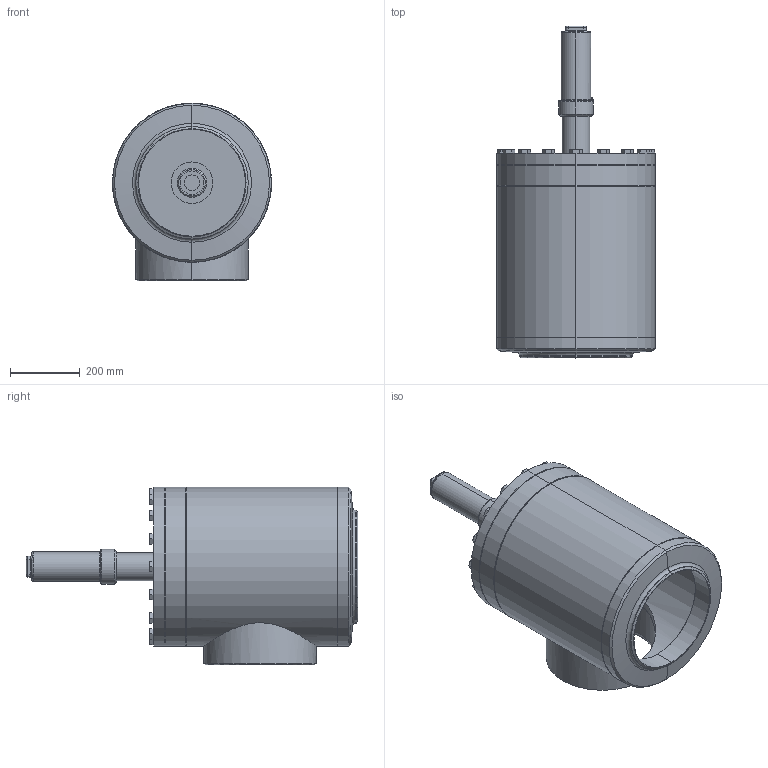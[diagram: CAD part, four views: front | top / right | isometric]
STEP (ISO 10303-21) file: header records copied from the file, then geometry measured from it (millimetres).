
FILE_DESCRIPTION (( 'STEP AP214' ), '1' );
FILE_NAME ('AVR26400aC25-DN300_R1_PS25.STEP', '2009-02-06T09:15:04', ( 'Eckhard Grams' ), ( 'AWP Kälte Klima Armaturen GmbH' ), 'SwSTEP 2.0', 'SolidWorks 2002296', '' );
FILE_SCHEMA (( 'AUTOMOTIVE_DESIGN' ));
Length unit declared in the file: millimetre
Products named in the file (15): AVR26400aC25-DN300_R1_PS25; AVR26300B25_Deck+Schr-DN300_Standard; Deckel,kpl26300B25-DN300_Standard; Buchse1 f Deckel26300-DN300_Standard; Scheibe f Deckel26300-DN300_Standard; bead-deck263-300_Standard; Sechskantschraube-DIN933_M20x 60; Geh,kpl 26300a-25_R1_Standard; Gehäuse26300-DN300_Standard; Rohrstutzen-A26300a-25_R1_Standard; Kopfstück26300-DN300_Standard; Boden26300a-25_R1_Standard; bead Geh,kpl 26300a-25-2_Standard; bead Geh,kpl 26300a-25-1_Standard; Kappe 16402-23_DN200-350 (M80x3)_Standard
Assembly tree (29 placements, depth 4):
  AVR26400aC25-DN300_R1_PS25
    AVR26300B25_Deck+Schr-DN300_Standard
      Sechskantschraube-DIN933_M20x 60  x16
      Deckel,kpl26300B25-DN300_Standard
        Scheibe f Deckel26300-DN300_Standard
        Buchse1 f Deckel26300-DN300_Standard
        bead-deck263-300_Standard
    Kappe 16402-23_DN200-350 (M80x3)_Standard
    Geh,kpl 26300a-25_R1_Standard
      Rohrstutzen-A26300a-25_R1_Standard
      bead Geh,kpl 26300a-25-2_Standard
      Kopfstück26300-DN300_Standard
      bead Geh,kpl 26300a-25-1_Standard
      Boden26300a-25_R1_Standard
      Gehäuse26300-DN300_Standard
Bounding box: 457.5 x 955 x 510.75 mm (x, y, z)
Volume: 27100661.2 mm3; surface area: 2956927.3 mm2
Topology: 26 solids, 26 shells, 628 faces, 1355 edges, 805 vertices
Faces by surface type: cone 244, plane 189, cylinder 148, bspline 31, torus 16
Entity records: 23266 total; most frequent: CARTESIAN_POINT 16708, DIRECTION 1277, ORIENTED_EDGE 1150, EDGE_CURVE 575, AXIS2_PLACEMENT_3D 555, VERTEX_POINT 355, EDGE_LOOP 320, CIRCLE 298
